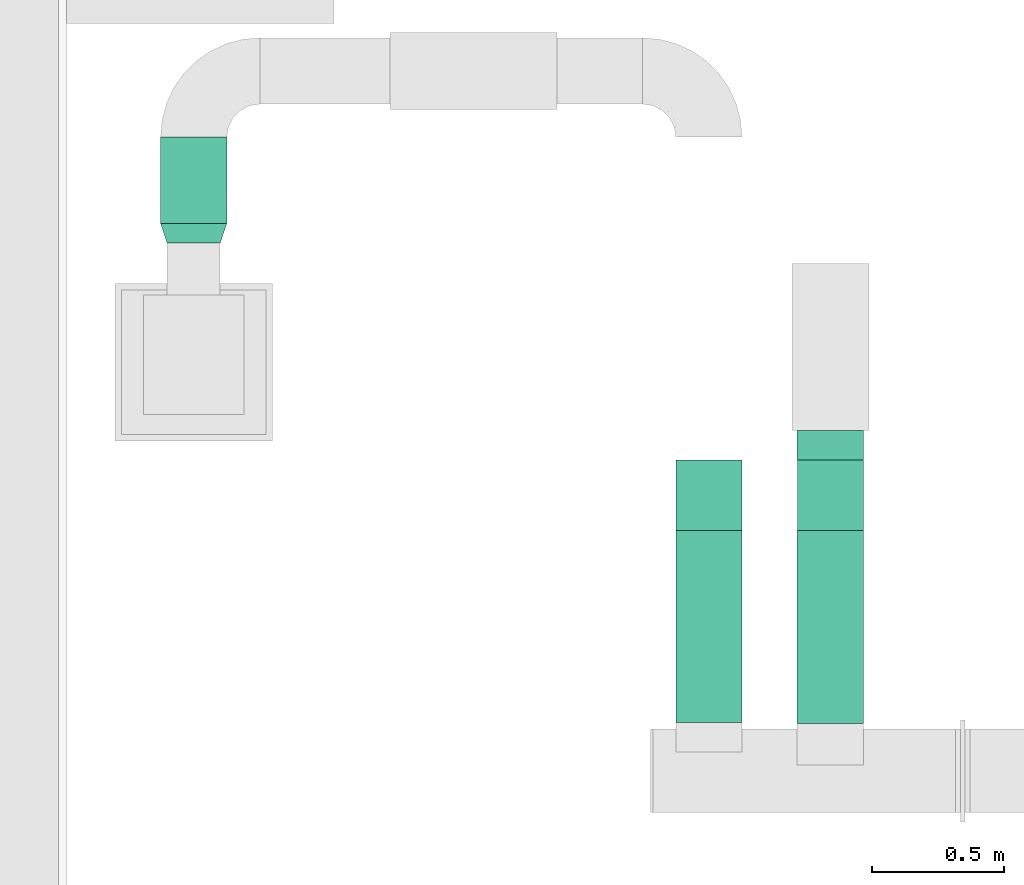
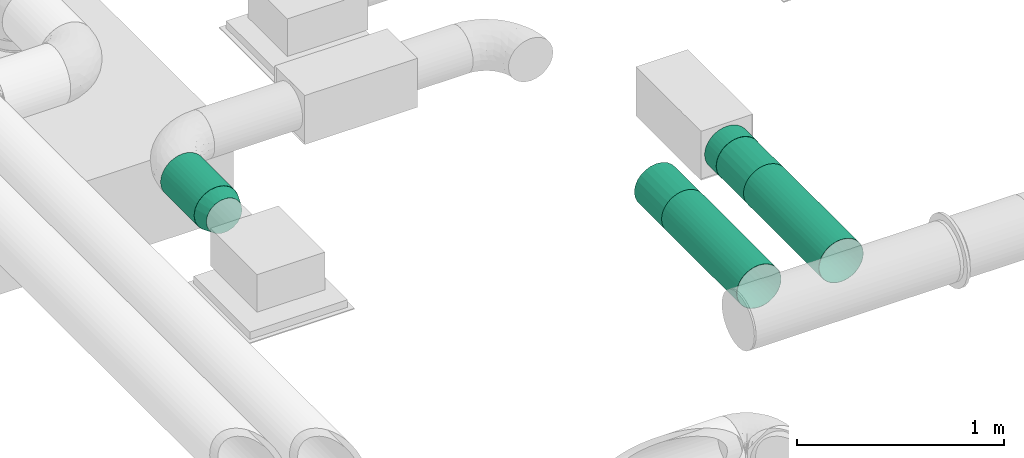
# One storey, part 19 of 36: 4 flow segments, 2 flow controllers, 1 flow fitting.
"""IFC2X3 building model written with IfcOpenShell, lengths in millimetres."""

from ifc_helpers import new_model, entity, si_unit, converted_unit, derived_unit, direction, frame, origin_with_axes, origin_2d_with_axis, place, context, subcontext, project, spatial, hollow_circle, extrude, open_shell, surface_model, source, transform, mapped, type_object, element, save


model = new_model("IFC2X3")

# Units and contexts
model_context = context("Model", 3, precision=0.01, world=frame((0.0, 4.29681676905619e-09, 0.0)), true_north=direction((4.01073788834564e-13, 1.0)))
plan_context = context("Plan", 3, precision=0.01, world=frame((0.0, 4.29681676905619e-09, 0.0)), true_north=direction((4.01073788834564e-13, 1.0)))
body_context = subcontext(model_context, "Body", "Model", "MODEL_VIEW")
ifc_project = project(units=[converted_unit("PLANEANGLEUNIT", "DEGREE", entity("IfcPositiveLengthMeasure", 0.0174532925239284), si_unit("PLANEANGLEUNIT", "RADIAN"), dimensions=[0, 0, 0, 0, 0, 0, 0]), si_unit("AREAUNIT", "SQUARE_METRE"), si_unit("LENGTHUNIT", "METRE", prefix="MILLI"), si_unit("MASSUNIT", "GRAM", prefix="KILO"), si_unit("POWERUNIT", "WATT"), si_unit("PRESSUREUNIT", "PASCAL"), si_unit("FORCEUNIT", "NEWTON", prefix="KILO"), si_unit("ELECTRICCURRENTUNIT", "AMPERE"), si_unit("THERMODYNAMICTEMPERATUREUNIT", "DEGREE_CELSIUS"), si_unit("TIMEUNIT", "SECOND"), si_unit("VOLUMEUNIT", "CUBIC_METRE"), derived_unit("LINEARVELOCITYUNIT", [(si_unit("LENGTHUNIT", "METRE"), 1), (si_unit("TIMEUNIT", "SECOND"), -1)]), derived_unit("VOLUMETRICFLOWRATEUNIT", [(si_unit("VOLUMEUNIT", "CUBIC_METRE"), 1), (si_unit("TIMEUNIT", "SECOND"), -1)]), derived_unit("THERMALTRANSMITTANCEUNIT", [(si_unit("POWERUNIT", "WATT"), 1), (si_unit("THERMODYNAMICTEMPERATUREUNIT", "KELVIN"), -1), (si_unit("AREAUNIT", "SQUARE_METRE"), -1)])], contexts=[model_context, plan_context])

# Site, building, storey
site_placement = place(None, frame((0.0, -4.29681676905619e-09, 0.0), z_axis=(0.0, 0.0, 1.0), x_axis=(1.0, 0.0, 0.0)))
site = spatial("IfcSite", under=ifc_project, at=site_placement, CompositionType="ELEMENT")
building_placement = place(site_placement, frame((0.0, 4.29681676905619e-09, 0.0), z_axis=(0.0, 0.0, 1.0), x_axis=(1.0, 0.0, 0.0)))
building = spatial("IfcBuilding", under=site, at=building_placement, Name="mc-building", CompositionType="ELEMENT")
storey_placement = place(building_placement, frame((0.0, 0.0, 204000.0), z_axis=(0.0, 0.0, 1.0), x_axis=(1.0, 0.0, 0.0)))
storey = spatial("IfcBuildingStorey", under=building, at=storey_placement, Name="Nivå D", CompositionType="ELEMENT", Elevation=204000.0)

# Flow controllers
damper_type = type_object("IfcDamperType", Name="IGNIS-C-EI60-250", PredefinedType="FIREDAMPER")
shared_shape_1 = source(origin_with_axes(), body_context, "Body", "SurfaceModel", [
    surface_model("IfcShellBasedSurfaceModel", [(132.5, 62.25, -107.82016), (132.5, 88.0348, -88.0348), (132.5, 62.15, -107.64695), (132.5, 32.17121, -120.06458), (132.5, 0.0, -124.3), (132.5, 32.22297, -120.25777), (132.5, 0.0, -124.5), (132.5, 87.89337, -87.89337), (132.5, 120.25777, -32.22297), (132.5, 124.3, 0.0), (132.5, 120.06458, -32.17121), (132.5, 124.5, 0.0), (132.5, 107.82016, -62.25), (132.5, 107.64695, -62.15), (132.5, -32.17121, -120.06458), (132.5, -32.22297, -120.25777), (132.5, -62.15, -107.64695), (132.5, -88.0348, -88.0348), (132.5, -62.25, -107.82016), (132.5, -87.89337, -87.89337), (132.5, -107.64695, -62.15), (132.5, -107.82016, -62.25), (132.5, -120.06458, -32.17121), (132.5, -120.25777, -32.22297), (132.5, -124.3, 0.0), (132.5, -124.5, 0.0), (132.5, 120.25777, 32.22297), (132.5, 120.06458, 32.17121), (132.5, 107.64695, 62.15), (132.5, 107.82016, 62.25), (132.5, 87.89337, 87.89337), (132.5, 88.0348, 88.0348), (132.5, 62.25, 107.82016), (132.5, 62.15, 107.64695), (132.5, 32.17121, 120.06458), (132.5, 32.22297, 120.25777), (132.5, 0.0, 124.3), (132.5, 0.0, 124.5), (132.5, -107.82016, 62.25), (132.5, -107.64695, 62.15), (132.5, -88.0348, 88.0348), (132.5, -87.89337, 87.89337), (132.5, -120.25777, 32.22297), (132.5, -120.06458, 32.17121), (132.5, -32.17121, 120.06458), (132.5, -32.22297, 120.25777), (132.5, -62.15, 107.64695), (132.5, -62.25, 107.82016), (-132.5, 62.25, 107.82016), (-132.5, 88.0348, 88.0348), (-132.5, 62.15, 107.64695), (-132.5, 32.17121, 120.06458), (-132.5, 0.0, 124.3), (-132.5, 32.22297, 120.25777), (-132.5, 0.0, 124.5), (-132.5, 87.89337, 87.89337), (-132.5, 120.25777, 32.22297), (-132.5, 124.3, 0.0), (-132.5, 120.06458, 32.17121), (-132.5, 124.5, 0.0), (-132.5, 107.82016, 62.25), (-132.5, 107.64695, 62.15), (-132.5, -32.17121, 120.06458), (-132.5, -32.22297, 120.25777), (-132.5, -62.15, 107.64695), (-132.5, -88.0348, 88.0348), (-132.5, -62.25, 107.82016), (-132.5, -87.89337, 87.89337), (-132.5, -107.64695, 62.15), (-132.5, -107.82016, 62.25), (-132.5, -120.06458, 32.17121), (-132.5, -120.25777, 32.22297), (-132.5, -124.3, 0.0), (-132.5, -124.5, 0.0), (-132.5, 120.25777, -32.22297), (-132.5, 120.06458, -32.17121), (-132.5, 107.64695, -62.15), (-132.5, 107.82016, -62.25), (-132.5, 87.89337, -87.89337), (-132.5, 88.0348, -88.0348), (-132.5, 62.25, -107.82016), (-132.5, 62.15, -107.64695), (-132.5, 32.17121, -120.06458), (-132.5, 32.22297, -120.25777), (-132.5, 0.0, -124.3), (-132.5, 0.0, -124.5), (-132.5, -107.82016, -62.25), (-132.5, -107.64695, -62.15), (-132.5, -88.0348, -88.0348), (-132.5, -87.89337, -87.89337), (-132.5, -120.25777, -32.22297), (-132.5, -120.06458, -32.17121), (-132.5, -32.17121, -120.06458), (-132.5, -32.22297, -120.25777), (-132.5, -62.15, -107.64695), (-132.5, -62.25, -107.82016)], [open_shell([[[0, 1, 2]], [[0, 2, 3]], [[4, 5, 3]], [[5, 4, 6]], [[3, 5, 0]], [[2, 1, 7]], [[8, 9, 10]], [[9, 8, 11]], [[8, 10, 12]], [[7, 12, 13]], [[12, 7, 1]], [[13, 12, 10]], [[6, 14, 15]], [[15, 14, 16]], [[17, 18, 19]], [[16, 18, 15]], [[16, 19, 18]], [[6, 4, 14]], [[20, 21, 17]], [[21, 20, 22]], [[20, 17, 19]], [[23, 22, 24]], [[22, 23, 21]], [[23, 24, 25]], [[11, 26, 27]], [[27, 26, 28]], [[28, 29, 30]], [[29, 28, 26]], [[30, 29, 31]], [[31, 32, 33]], [[33, 32, 34]], [[34, 35, 36]], [[35, 34, 32]], [[36, 35, 37]], [[33, 30, 31]], [[38, 39, 40]], [[40, 39, 41]], [[39, 38, 42]], [[25, 43, 42]], [[42, 43, 39]], [[25, 24, 43]], [[44, 37, 45]], [[44, 45, 46]], [[41, 47, 40]], [[41, 46, 47]], [[47, 46, 45]], [[36, 37, 44]], [[27, 9, 11]], [[48, 49, 50]], [[48, 50, 51]], [[52, 53, 51]], [[53, 52, 54]], [[51, 53, 48]], [[50, 49, 55]], [[56, 57, 58]], [[57, 56, 59]], [[56, 58, 60]], [[55, 60, 61]], [[60, 55, 49]], [[61, 60, 58]], [[54, 62, 63]], [[63, 62, 64]], [[65, 66, 67]], [[64, 66, 63]], [[64, 67, 66]], [[54, 52, 62]], [[68, 69, 65]], [[69, 68, 70]], [[68, 65, 67]], [[71, 70, 72]], [[70, 71, 69]], [[71, 72, 73]], [[59, 74, 75]], [[75, 74, 76]], [[76, 77, 78]], [[77, 76, 74]], [[78, 77, 79]], [[79, 80, 81]], [[81, 80, 82]], [[82, 83, 84]], [[83, 82, 80]], [[84, 83, 85]], [[81, 78, 79]], [[86, 87, 88]], [[88, 87, 89]], [[87, 86, 90]], [[73, 91, 90]], [[90, 91, 87]], [[73, 72, 91]], [[92, 85, 93]], [[92, 93, 94]], [[89, 95, 88]], [[89, 94, 95]], [[95, 94, 93]], [[84, 85, 92]], [[75, 57, 59]], [[23, 90, 86]], [[88, 21, 86]], [[18, 95, 93]], [[88, 95, 17]], [[15, 93, 85]], [[90, 25, 73]], [[90, 23, 25]], [[86, 21, 23]], [[88, 17, 21]], [[18, 17, 95]], [[93, 15, 18]], [[85, 6, 15]], [[5, 83, 80]], [[79, 0, 80]], [[12, 77, 74]], [[79, 77, 1]], [[8, 74, 59]], [[83, 5, 6]], [[80, 0, 5]], [[79, 1, 0]], [[77, 12, 1]], [[8, 12, 74]], [[59, 11, 8]], [[83, 6, 85]], [[59, 56, 26]], [[53, 32, 48]], [[48, 31, 49]], [[35, 53, 54]], [[59, 26, 11]], [[26, 56, 60]], [[26, 60, 29]], [[60, 49, 29]], [[49, 31, 29]], [[32, 31, 48]], [[53, 35, 32]], [[54, 37, 35]], [[45, 63, 66]], [[65, 47, 66]], [[38, 69, 71]], [[65, 69, 40]], [[42, 71, 73]], [[63, 45, 37]], [[66, 47, 45]], [[65, 40, 47]], [[69, 38, 40]], [[42, 38, 71]], [[73, 25, 42]], [[63, 37, 54]], [[87, 91, 22]], [[87, 20, 89]], [[92, 94, 16]], [[19, 94, 89]], [[84, 92, 14]], [[72, 24, 91]], [[24, 22, 91]], [[22, 20, 87]], [[20, 19, 89]], [[94, 19, 16]], [[16, 14, 92]], [[14, 4, 84]], [[81, 82, 3]], [[81, 2, 78]], [[75, 76, 13]], [[7, 76, 78]], [[57, 75, 10]], [[4, 3, 82]], [[3, 2, 81]], [[2, 7, 78]], [[7, 13, 76]], [[75, 13, 10]], [[10, 9, 57]], [[84, 4, 82]], [[27, 58, 57]], [[50, 33, 51]], [[55, 30, 50]], [[52, 51, 34]], [[9, 27, 57]], [[61, 58, 27]], [[28, 61, 27]], [[28, 55, 61]], [[28, 30, 55]], [[50, 30, 33]], [[33, 34, 51]], [[34, 36, 52]], [[64, 62, 44]], [[64, 46, 67]], [[70, 68, 39]], [[41, 68, 67]], [[72, 70, 43]], [[36, 44, 62]], [[44, 46, 64]], [[46, 41, 67]], [[41, 39, 68]], [[70, 39, 43]], [[43, 24, 72]], [[52, 36, 62]]])]),
])
for number, where, z_axis, x_axis in (
    (1, (517950.0, 417435.11782, 2589.0), (0.0, 0.0, -1.0), (0.0, 1.0, 0.0)),
    (2, (517491.89341, 417435.11782, 2596.62929000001), (0.0, 0.0, 1.0), (0.0, 1.0, 0.0)),
):
    element("IfcFlowController", number, at=place(storey_placement, frame(where, z_axis=z_axis, x_axis=x_axis)), inside=storey, type_object=damper_type, Name="IGNIS-C-EI60-250", context=body_context, shape_type="MappedRepresentation", body=[
        mapped(shared_shape_1, transform((0.0, 0.0, 0.0), scale=1.0)),
    ])

# Flow fitting
duct_fitting_type = type_object("IfcDuctFittingType", Name="magicirc_reduction_001", PredefinedType="TRANSITION")
shared_shape_2 = source(origin_with_axes(), body_context, "Body", "SurfaceModel", [
    surface_model("IfcShellBasedSurfaceModel", [(75.0, 38.62713, 118.88206), (75.0, 0.0, 125.0), (75.0, -38.62713, 118.88206), (75.0, -101.12712, 73.47315), (75.0, -73.47315, 101.12712), (75.0, 125.0, 0.0), (75.0, -118.88206, 38.62713), (75.0, 73.47315, 101.12712), (75.0, 101.12712, 73.47315), (75.0, 118.88206, 38.62713), (75.0, 0.0, -125.0), (75.0, -118.88206, -38.62713), (75.0, -101.12712, -73.47315), (75.0, -73.47315, -101.12712), (75.0, -38.62713, -118.88206), (75.0, 118.88206, -38.62713), (75.0, 101.12712, -73.47315), (75.0, 73.47315, -101.12712), (75.0, 38.62713, -118.88206), (75.0, -125.0, 0.0), (0.0, 17.36482, 98.48077), (0.0, 50.0, 86.60254), (0.0, 76.60444, 64.27876), (0.0, 93.96926, 34.20201), (0.0, -50.0, 86.60254), (0.0, -17.36482, 98.48077), (0.0, -76.60444, 64.27876), (0.0, -100.0, 0.0), (0.0, -93.96926, 34.20201), (0.0, 17.36482, -98.48077), (0.0, 93.96926, -34.20201), (0.0, 76.60444, -64.27876), (0.0, 50.0, -86.60254), (0.0, -76.60444, -64.27876), (0.0, -93.96926, -34.20201), (0.0, -50.0, -86.60254), (0.0, -17.36482, -98.48077), (0.0, 100.0, 0.0)], [open_shell([[[0, 1, 2]], [[3, 0, 4]], [[4, 0, 2]], [[5, 3, 6]], [[0, 3, 7]], [[8, 5, 9]], [[5, 8, 7]], [[3, 5, 7]], [[6, 10, 5]], [[11, 12, 6]], [[13, 14, 6]], [[12, 13, 6]], [[6, 14, 10]], [[15, 5, 16]], [[5, 17, 16]], [[18, 17, 5]], [[10, 18, 5]], [[6, 19, 11]], [[20, 21, 22]], [[22, 23, 20]], [[20, 23, 24]], [[25, 20, 24]], [[26, 27, 28]], [[26, 24, 23]], [[27, 26, 23]], [[23, 29, 27]], [[30, 31, 23]], [[32, 23, 31]], [[29, 23, 32]], [[27, 33, 34]], [[27, 35, 33]], [[36, 35, 27]], [[36, 27, 29]], [[23, 37, 30]], [[27, 34, 11]], [[13, 33, 35]], [[14, 35, 36]], [[34, 33, 12]], [[19, 27, 11]], [[11, 34, 12]], [[14, 13, 35]], [[33, 13, 12]], [[36, 10, 14]], [[29, 32, 18]], [[30, 37, 15]], [[31, 30, 16]], [[32, 31, 17]], [[32, 17, 18]], [[18, 10, 29]], [[16, 17, 31]], [[30, 15, 16]], [[5, 15, 37]], [[29, 10, 36]], [[37, 23, 9]], [[7, 22, 21]], [[0, 21, 20]], [[23, 22, 8]], [[5, 37, 9]], [[9, 23, 8]], [[0, 7, 21]], [[22, 7, 8]], [[20, 1, 0]], [[25, 24, 2]], [[28, 27, 6]], [[26, 28, 3]], [[24, 26, 4]], [[24, 4, 2]], [[2, 1, 25]], [[3, 4, 26]], [[28, 6, 3]], [[19, 6, 27]], [[25, 1, 20]]])]),
])
flow_fitting_placement = place(storey_placement, frame((515547.5, 418386.29898, 2596.62929000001), z_axis=(0.0, 0.0, 1.0), x_axis=(0.0, 1.0, 0.0)))
element("IfcFlowFitting", 3, at=flow_fitting_placement, inside=storey, type_object=duct_fitting_type, Name="magicirc_reduction_001", context=body_context, shape_type="MappedRepresentation", body=[
    mapped(shared_shape_2, transform((0.0, 0.0, 0.0), scale=1.0)),
])

# Flow segments
duct_segment_type = type_object("IfcDuctSegmentType", Name="KK001T - Spiro kanaler, Forsinket stål", PredefinedType="RIGIDSEGMENT")
shared_shape_3 = source(origin_with_axes(), body_context, "Body", "SweptSolid", [
    extrude(hollow_circle(Radius=125.0, WallThickness=2.0, at=origin_2d_with_axis()), frame((0.0, 0.0, 0.0), z_axis=(1.0, 0.0, 0.0), x_axis=(0.0, 1.0, 0.0)), (0.0, 0.0, 1.0), 324.8),
])
flow_segment_1_placement = place(storey_placement, frame((515547.5, 418786.05196, 2596.62929000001), z_axis=(0.0, 0.0, 1.0), x_axis=(0.0, -1.0, 0.0)))
element("IfcFlowSegment", 4, at=flow_segment_1_placement, inside=storey, type_object=duct_segment_type, Name="KK001T - Spiro kanaler, Forsinket stål", context=body_context, shape_type="MappedRepresentation", body=[
    mapped(shared_shape_3, transform((0.0, 0.0, 0.0), scale=1.0)),
])
shared_shape_4 = source(origin_with_axes(), body_context, "Body", "SweptSolid", [
    extrude(hollow_circle(Radius=125.0, WallThickness=2.0, at=origin_2d_with_axis()), frame((0.0, 0.0, 0.0), z_axis=(1.0, 0.0, 0.0), x_axis=(0.0, 1.0, 0.0)), (0.0, 0.0, 1.0), 112.1),
])
flow_segment_2_placement = place(storey_placement, frame((517950.0, 417679.68824, 2589.0), z_axis=(0.0, 0.0, 1.0), x_axis=(0.0, -1.0, 0.0)))
element("IfcFlowSegment", 5, at=flow_segment_2_placement, inside=storey, type_object=duct_segment_type, Name="KK001T - Spiro kanaler, Forsinket stål", context=body_context, shape_type="MappedRepresentation", body=[
    mapped(shared_shape_4, transform((0.0, 0.0, 0.0), scale=1.0)),
])
shared_shape_5 = source(origin_with_axes(), body_context, "Body", "SweptSolid", [
    extrude(hollow_circle(Radius=125.0, WallThickness=2.0, at=origin_2d_with_axis()), frame((0.0, 0.0, 0.0), z_axis=(1.0, 0.0, 0.0), x_axis=(0.0, 1.0, 0.0)), (0.0, 0.0, 1.0), 728.3),
])
flow_segment_3_placement = place(storey_placement, frame((517950.0, 417302.61782, 2589.0), z_axis=(0.0, 0.0, 1.0), x_axis=(0.0, -1.0, 0.0)))
element("IfcFlowSegment", 6, at=flow_segment_3_placement, inside=storey, type_object=duct_segment_type, Name="KK001T - Spiro kanaler, Forsinket stål", context=body_context, shape_type="MappedRepresentation", body=[
    mapped(shared_shape_5, transform((0.0, 0.0, 0.0), scale=1.0)),
])
shared_shape_6 = source(origin_with_axes(), body_context, "Body", "SweptSolid", [
    extrude(hollow_circle(Radius=125.0, WallThickness=2.0, at=origin_2d_with_axis()), frame((0.0, 0.0, 0.0), z_axis=(1.0, 0.0, 0.0), x_axis=(0.0, 1.0, 0.0)), (0.0, 0.0, 1.0), 725.9),
])
flow_segment_4_placement = place(storey_placement, frame((517491.89341, 417302.61782, 2596.62929000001), z_axis=(0.0, 0.0, 1.0), x_axis=(0.0, -1.0, 0.0)))
element("IfcFlowSegment", 7, at=flow_segment_4_placement, inside=storey, type_object=duct_segment_type, Name="KK001T - Spiro kanaler, Forsinket stål", context=body_context, shape_type="MappedRepresentation", body=[
    mapped(shared_shape_6, transform((0.0, 0.0, 0.0), scale=1.0)),
])

save(model, "model.ifc")
